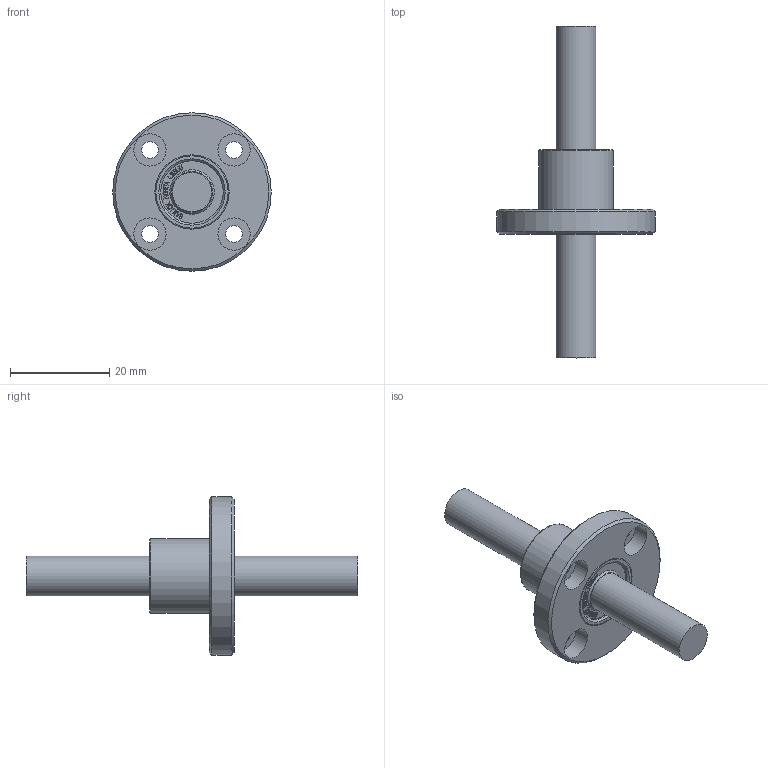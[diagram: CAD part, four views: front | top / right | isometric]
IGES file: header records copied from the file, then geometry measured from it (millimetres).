
Global section: file name: No Iges File Name specified; native system: Autodesk Inventor 2012; preprocessor: AutoDesk Inventor Iges Exporter R2012; author: user2; date: 20130206.160042; units: millimetre
Bounding box: 32 x 67 x 32 mm (x, y, z)
Volume: 8026.4 mm3; surface area: 4231.4 mm2
Topology: 1 solids, 1 shells, 823 faces, 2291 edges, 1526 vertices
Faces by surface type: bspline 580, plane 220, revolution 13, cone 4, cylinder 4, torus 2
Full cylindrical faces by diameter (mm): 8 x2, 15 x1, 32 x1
